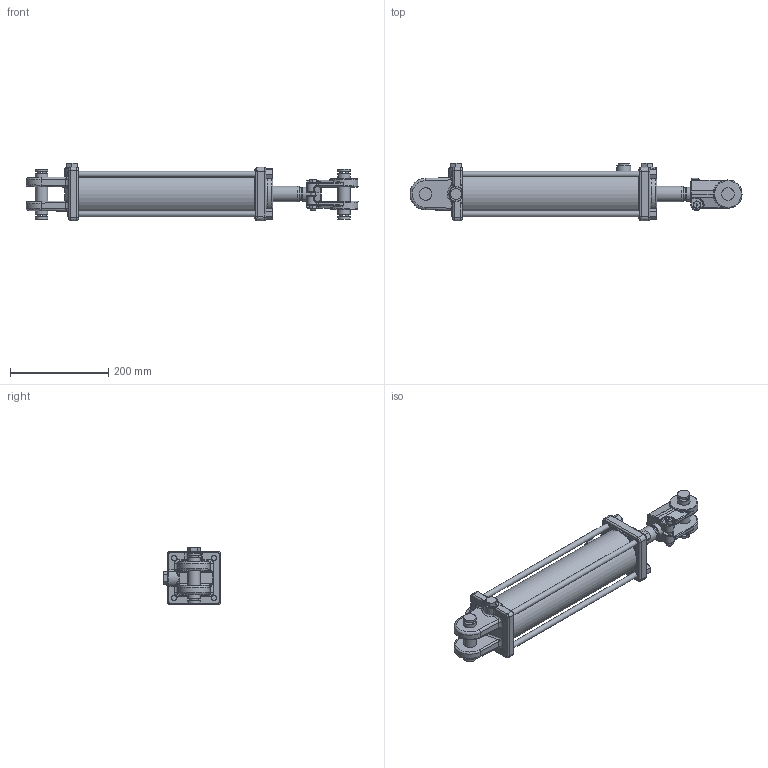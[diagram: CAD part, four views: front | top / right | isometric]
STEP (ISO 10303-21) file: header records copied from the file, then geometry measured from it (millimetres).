
FILE_DESCRIPTION((''),'2;1');
FILE_NAME('C:\Vault\Workspace\Vest\PMS-AM-2570.stp','2010-09-29T11:45:30',('kneifld'),(''),'Autodesk Inventor 2010','Autodesk Inventor 2010','');
FILE_SCHEMA(('AUTOMOTIVE_DESIGN { 1 0 10303 214 1 1 1 1 }'));
Length unit declared in the file: inch
Products named in the file (28): PMS-AM-2570V; 061600028V; 051600032V; 200300181V; 141600002V; 081600038V; 081600039V; 210600293V; 010600379V; 100000423V; 100000422V; 170002104V; 220000203V; 071600048V; 220000209V; 240064325V; 240061234V; 240000234V; 240011097V; 240000026V; 250014125V; 240020184V; 200300104V; 200300040V; 190400004V; 170201163; 800005001_16.375; 220000105V
Assembly tree (35 placements, depth 3):
  PMS-AM-2570V
    061600028V
      051600032V
      200300181V
    141600002V
    081600038V
      081600039V
      210600293V
    010600379V
    100000423V
      100000422V
      170002104V
      220000203V
    071600048V
    220000209V
    240064325V
    240061234V  x2
    240000234V  x2
    240011097V
    240000026V
    250014125V
    240020184V
    200300104V
    200300040V  x3
    190400004V  x2
    170201163  x4
      800005001_16.375
      220000105V
Bounding box: 676.23 x 117.97 x 117.97 mm (x, y, z)
Volume: 2194805.2 mm3; surface area: 560962.7 mm2
Topology: 34 solids, 34 shells, 927 faces, 2074 edges, 1217 vertices
Faces by surface type: plane 260, bspline 242, cylinder 228, cone 161, torus 23, sphere 13
Full cylindrical faces by diameter (mm): 1.575 x1, 2.769 x1, 5.156 x2, 5.159 x2, 9.493 x1, 10.319 x2, 11.43 x4, 16.764 x3, 19.05 x4, 22.174 x1, 22.301 x1, 22.352 x1, 25.4 x6, 25.781 x4, 25.806 x1, 28.372 x1, 28.575 x1, 31.725 x2, 31.75 x2, 32.004 x1, 32.702 x1, 33.376 x1, 34.188 x1, 34.798 x1, 35.707 x1, 35.719 x1, 37.948 x1, 38.964 x1, 40.323 x1, 40.488 x1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
Entity records: 29980 total; most frequent: CARTESIAN_POINT 13760, DIRECTION 3099, ORIENTED_EDGE 3066, EDGE_CURVE 1533, AXIS2_PLACEMENT_3D 1326, EDGE_LOOP 1019, VERTEX_POINT 990, FACE_OUTER_BOUND 769
